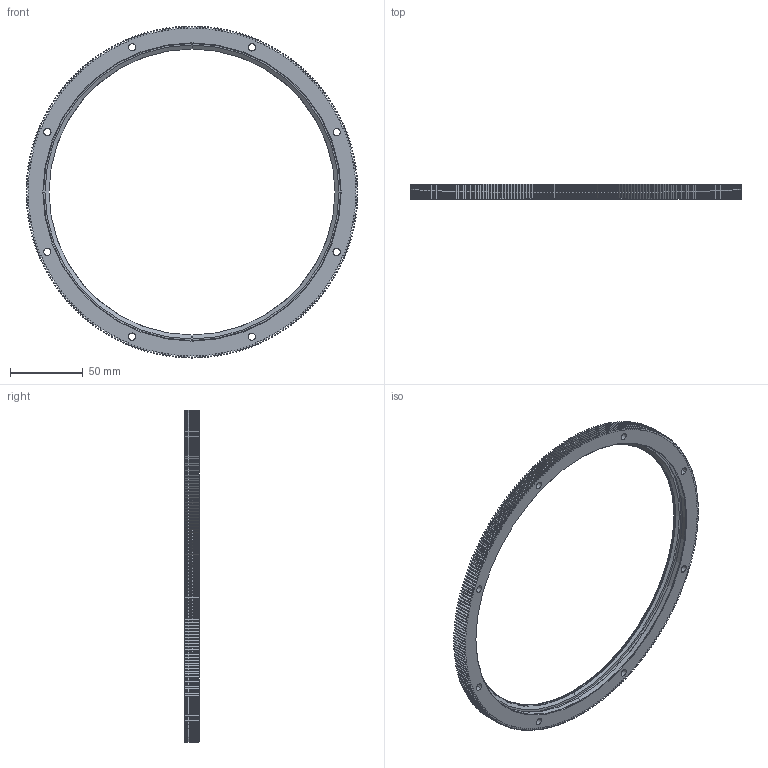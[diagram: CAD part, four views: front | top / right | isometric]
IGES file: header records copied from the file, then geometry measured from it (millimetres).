
Start section: 3D InterOp IGES (v. 2019 1.0.2), Spatial Corp. Copyright (c) 1999-2017.
Global section: file name: RIV 228 R360 P.igs; native system: Spatial Corp.; preprocessor: 3D InterOp GENERIC/IGES 3.0; author: Noname; organization: Noname; date: 20220719.140147; units: millimetre
Bounding box: 228.2 x 10 x 228.2 mm (x, y, z)
Surface area: 47630.5 mm2 (no closed solid volume)
Topology: 0 solids, 0 shells, 2004 faces, 11952 edges, 11948 vertices
Faces by surface type: extrusion 1308, revolution 696
